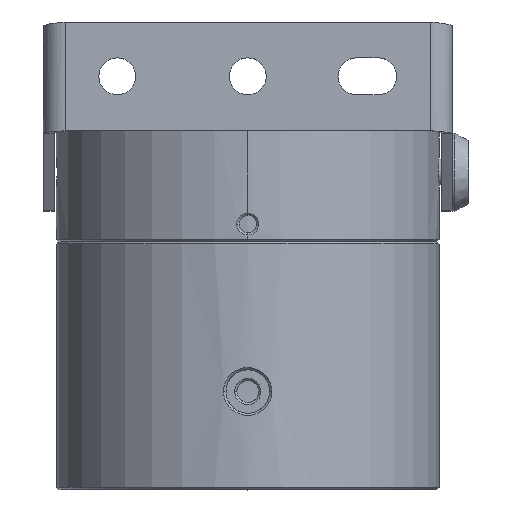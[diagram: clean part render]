
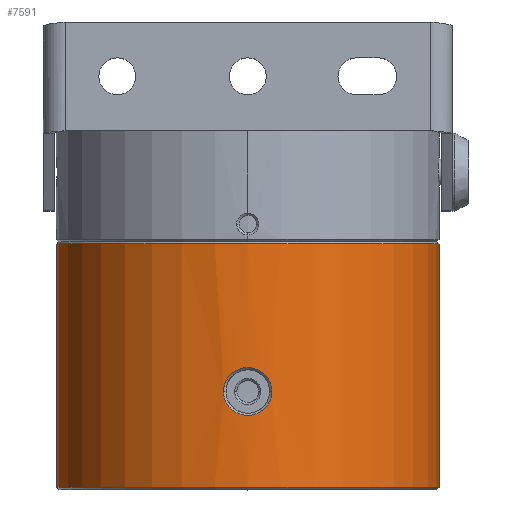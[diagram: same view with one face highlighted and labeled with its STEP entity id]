
A CAD part, top view. The second image highlights one B-rep face of the part: STEP entity #7591.
In plain terms, the highlighted cylindrical face has radius 44 mm (diameter 88 mm), a partial arc.
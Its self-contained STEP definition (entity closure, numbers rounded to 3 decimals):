
#7091=CARTESIAN_POINT('',(0.,-72.5,0.));
#7092=DIRECTION('',(0.,1.,0.));
#7093=DIRECTION('',(-1.,0.,0.));
#7094=AXIS2_PLACEMENT_3D('',#7091,#7092,#7093);
#7096=CARTESIAN_POINT('',(0.,-72.5,0.));
#7097=DIRECTION('',(0.,1.,0.));
#7098=DIRECTION('',(0.,0.,1.));
#7099=AXIS2_PLACEMENT_3D('',#7096,#7097,#7098);
#7105=DIRECTION('',(0.,-1.,0.));
#7106=VECTOR('',#7105,56.);
#7107=CARTESIAN_POINT('',(44.,-16.5,0.));
#7108=LINE('',#7107,#7106);
#7109=CARTESIAN_POINT('',(-5.563,-50.5,
43.647));
#7110=CARTESIAN_POINT('',(-5.563,-50.905,
43.647));
#7111=CARTESIAN_POINT('',(-5.475,-51.699,
43.658));
#7112=CARTESIAN_POINT('',(-5.071,-52.876,
43.708));
#7113=CARTESIAN_POINT('',(-4.398,-53.941,
43.782));
#7114=CARTESIAN_POINT('',(-3.542,-54.798,
43.861));
#7115=CARTESIAN_POINT('',(-2.484,-55.474,
43.935));
#7116=CARTESIAN_POINT('',(-1.292,-55.898,
43.987));
#7117=CARTESIAN_POINT('',(-0.037,-56.047,
44.006));
#7118=CARTESIAN_POINT('',(1.217,-55.914,43.989));
#7119=CARTESIAN_POINT('',(2.409,-55.509,43.939));
#7120=CARTESIAN_POINT('',(3.48,-54.85,43.866));
#7121=CARTESIAN_POINT('',(4.368,-53.981,43.785));
#7122=CARTESIAN_POINT('',(5.055,-52.912,43.71));
#7123=CARTESIAN_POINT('',(5.473,-51.718,43.659));
#7124=CARTESIAN_POINT('',(5.563,-50.912,43.647));
#7125=CARTESIAN_POINT('',(5.563,-50.5,43.647));
#7127=CARTESIAN_POINT('',(5.563,-50.5,43.647));
#7128=CARTESIAN_POINT('',(5.563,-50.095,43.647));
#7129=CARTESIAN_POINT('',(5.475,-49.301,43.658));
#7130=CARTESIAN_POINT('',(5.071,-48.124,43.708));
#7131=CARTESIAN_POINT('',(4.398,-47.059,43.782));
#7132=CARTESIAN_POINT('',(3.542,-46.202,43.861));
#7133=CARTESIAN_POINT('',(2.484,-45.526,43.935));
#7134=CARTESIAN_POINT('',(1.292,-45.102,43.987));
#7135=CARTESIAN_POINT('',(0.037,-44.953,
44.006));
#7136=CARTESIAN_POINT('',(-1.217,-45.086,
43.989));
#7137=CARTESIAN_POINT('',(-2.409,-45.491,
43.939));
#7138=CARTESIAN_POINT('',(-3.48,-46.15,
43.866));
#7139=CARTESIAN_POINT('',(-4.368,-47.019,
43.785));
#7140=CARTESIAN_POINT('',(-5.055,-48.088,
43.71));
#7141=CARTESIAN_POINT('',(-5.473,-49.282,
43.659));
#7142=CARTESIAN_POINT('',(-5.563,-50.088,
43.647));
#7143=CARTESIAN_POINT('',(-5.563,-50.5,
43.647));
#7145=DIRECTION('',(0.,-1.,0.));
#7146=VECTOR('',#7145,56.);
#7147=CARTESIAN_POINT('',(-44.,-16.5,0.));
#7148=LINE('',#7147,#7146);
#7197=CARTESIAN_POINT('',(0.,-16.5,0.));
#7198=DIRECTION('',(0.,-1.,0.));
#7199=DIRECTION('',(1.,0.,0.));
#7200=AXIS2_PLACEMENT_3D('',#7197,#7198,#7199);
#7202=CARTESIAN_POINT('',(0.,-16.5,0.));
#7203=DIRECTION('',(0.,-1.,0.));
#7204=DIRECTION('',(0.,0.,1.));
#7205=AXIS2_PLACEMENT_3D('',#7202,#7203,#7204);
#7425=CARTESIAN_POINT('',(-44.,-72.5,0.));
#7426=CARTESIAN_POINT('',(0.,-72.5,44.));
#7427=VERTEX_POINT('',#7425);
#7428=VERTEX_POINT('',#7426);
#7429=CARTESIAN_POINT('',(44.,-72.5,0.));
#7430=VERTEX_POINT('',#7429);
#7431=CARTESIAN_POINT('',(-44.,-16.5,0.));
#7432=VERTEX_POINT('',#7431);
#7433=CARTESIAN_POINT('',(0.,-16.5,44.));
#7434=VERTEX_POINT('',#7433);
#7435=CARTESIAN_POINT('',(44.,-16.5,0.));
#7436=VERTEX_POINT('',#7435);
#7437=VERTEX_POINT('',#7109);
#7438=VERTEX_POINT('',#7125);
#7568=CARTESIAN_POINT('',(0.,-76.25,0.));
#7569=DIRECTION('',(0.,1.,0.));
#7570=DIRECTION('',(-1.,0.,0.));
#7571=AXIS2_PLACEMENT_3D('',#7568,#7569,#7570);
#7572=CYLINDRICAL_SURFACE('',#7571,44.);
#7573=ORIENTED_EDGE('',*,*,#7557,.F.);
#7574=ORIENTED_EDGE('',*,*,#7555,.F.);
#7576=ORIENTED_EDGE('',*,*,#7575,.F.);
#7578=ORIENTED_EDGE('',*,*,#7577,.F.);
#7580=ORIENTED_EDGE('',*,*,#7579,.F.);
#7582=ORIENTED_EDGE('',*,*,#7581,.T.);
#7583=EDGE_LOOP('',(#7573,#7574,#7576,#7578,#7580,#7582));
#7584=FACE_OUTER_BOUND('',#7583,.F.);
#7586=ORIENTED_EDGE('',*,*,#7585,.T.);
#7588=ORIENTED_EDGE('',*,*,#7587,.T.);
#7589=EDGE_LOOP('',(#7586,#7588));
#7590=FACE_BOUND('',#7589,.F.);
#7591=ADVANCED_FACE('',(#7584,#7590),#7572,.T.);
#7095=CIRCLE('',#7094,44.);
#7100=CIRCLE('',#7099,44.);
#7126=B_SPLINE_CURVE_WITH_KNOTS('',3,(#7109,#7110,#7111,#7112,#7113,#7114,#7115,
#7116,#7117,#7118,#7119,#7120,#7121,#7122,#7123,#7124,#7125),.UNSPECIFIED.,.F.,
.F.,(4,1,1,1,1,1,1,1,1,1,1,1,1,1,4),(0.,0.071,0.143,
0.214,0.286,0.357,0.429,0.5,
0.571,0.643,0.714,0.786,
0.857,0.929,1.),.UNSPECIFIED.);
#7144=B_SPLINE_CURVE_WITH_KNOTS('',3,(#7127,#7128,#7129,#7130,#7131,#7132,#7133,
#7134,#7135,#7136,#7137,#7138,#7139,#7140,#7141,#7142,#7143),.UNSPECIFIED.,.F.,
.F.,(4,1,1,1,1,1,1,1,1,1,1,1,1,1,4),(0.,0.071,0.143,
0.214,0.286,0.357,0.429,0.5,
0.571,0.643,0.714,0.786,
0.857,0.929,1.),.UNSPECIFIED.);
#7201=CIRCLE('',#7200,44.);
#7206=CIRCLE('',#7205,44.);
#7555=EDGE_CURVE('',#7427,#7428,#7095,.T.);
#7557=EDGE_CURVE('',#7428,#7430,#7100,.T.);
#7575=EDGE_CURVE('',#7432,#7427,#7148,.T.);
#7577=EDGE_CURVE('',#7434,#7432,#7206,.T.);
#7579=EDGE_CURVE('',#7436,#7434,#7201,.T.);
#7581=EDGE_CURVE('',#7436,#7430,#7108,.T.);
#7585=EDGE_CURVE('',#7437,#7438,#7126,.T.);
#7587=EDGE_CURVE('',#7438,#7437,#7144,.T.);
